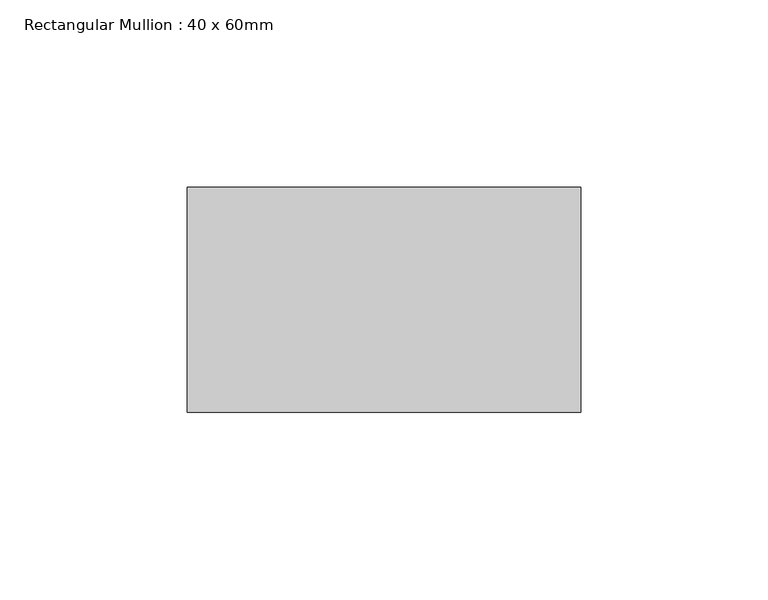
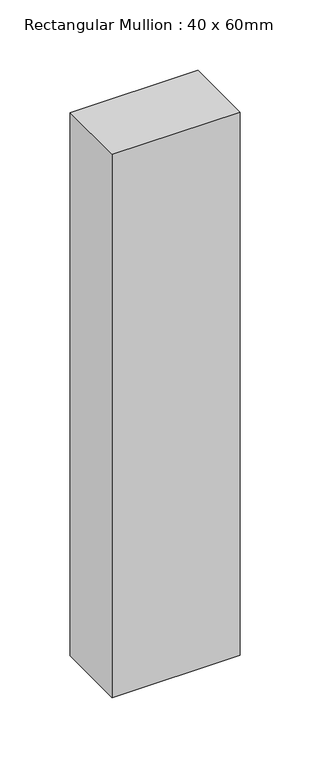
"""IFC4 building model written with IfcOpenShell, lengths in millimetres: member geometry, Rectangular Mullion : 40 x 60mm."""

from ifc_helpers import new_model, si_unit, frame, origin, place, context, project, spatial, polyline, outline, extrude, source, transform, mapped, element, save


def rectangular_mullion_40_x_60mm_57d24d66(model_context):
    return source(origin(), model_context, "Body", "SweptSolid", [
        extrude(outline(polyline([(0.0, -10.0), (0.0, -70.0), (-105.0, -70.0), (-105.0, -10.0), (0.0, -10.0)])), frame((0.0, 0.0, -471.9723145), z_axis=(0.0, 0.0, 1.0), x_axis=(1.0, 0.0, 0.0)), (0.0, 0.0, 1.0), 471.9723145),
    ])


if __name__ == "__main__":
    model = new_model("IFC4")
    model_context = context("Model", 3, world=origin())
    ifc_project = project(units=[si_unit("LENGTHUNIT", "METRE", prefix="MILLI")], contexts=[model_context])
    site = spatial("IfcSite", under=ifc_project)
    building = spatial("IfcBuilding", under=site)
    placement = place(None, origin())
    rectangular_mullion_40_x_60mm_shape = rectangular_mullion_40_x_60mm_57d24d66(model_context)
    element("IfcMember", 1, ObjectType="Rectangular Mullion : 40 x 60mm", at=placement, inside=building, context=model_context, shape_type="MappedRepresentation", body=[
        mapped(rectangular_mullion_40_x_60mm_shape, transform((0.0, 0.0, 0.0), x_axis=(1.0, 0.0, 0.0), y_axis=(0.0, 1.0, 0.0), z_axis=(0.0, 0.0, 1.0))),
    ])
    save(model, "model.ifc")
